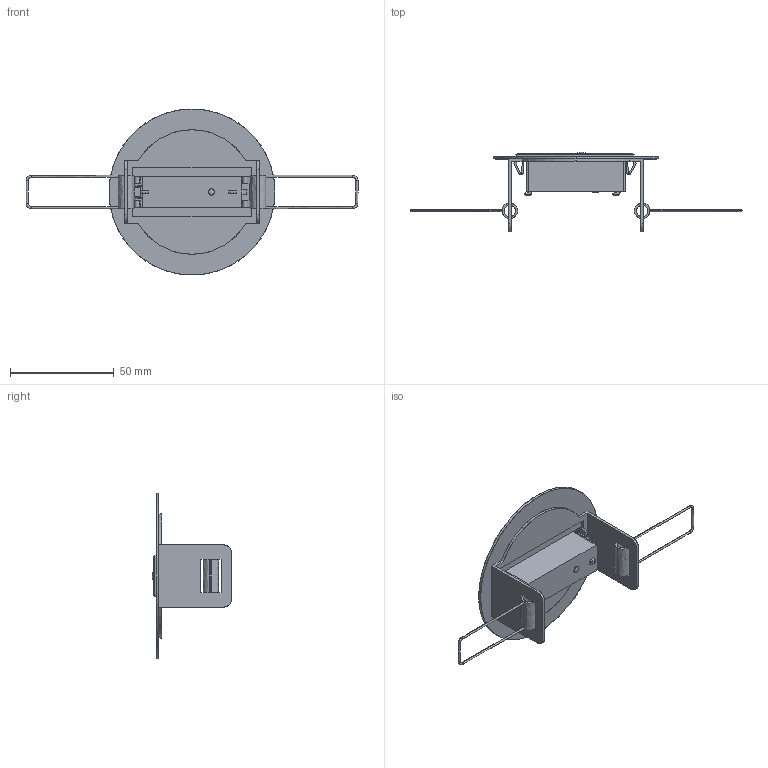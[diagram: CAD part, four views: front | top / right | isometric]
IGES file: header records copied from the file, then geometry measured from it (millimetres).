
Start section: SolidWorks IGES file using analytic representation for surfaces
Global section: file name: D:\ECTR_TEMP\OLQ-batchEngine\queue\temp\4237497swm000.igs; native system: SolidWorks 2017; preprocessor: SolidWorks 2017; author: SYSTEM; date: 200810.143032; units: millimetre
Bounding box: 160 x 38.18 x 80 mm (x, y, z)
Surface area: 19960.7 mm2 (no closed solid volume)
Topology: 0 solids, 0 shells, 465 faces, 5179 edges, 5175 vertices
Faces by surface type: bspline 338, revolution 127
